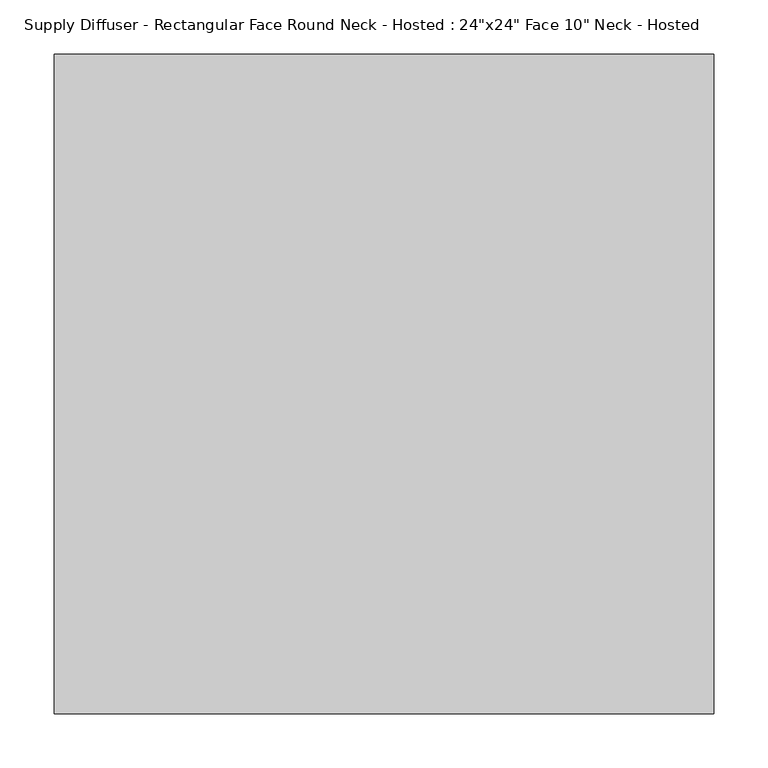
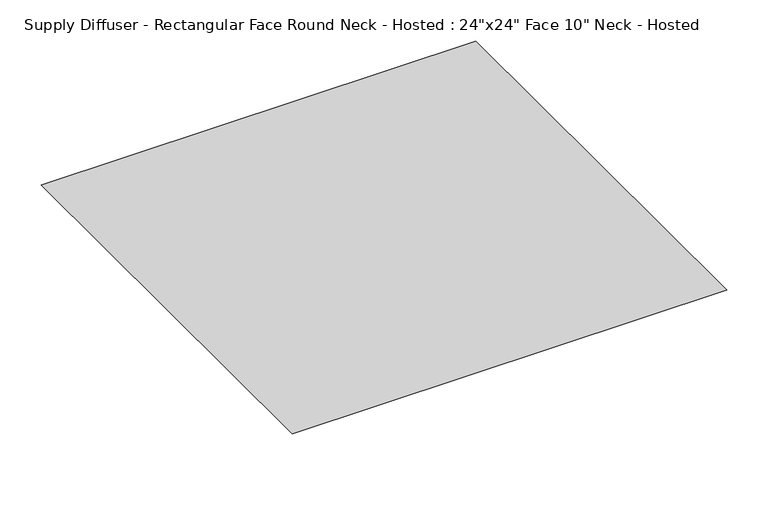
"""IFC4 building model written with IfcOpenShell, lengths in millimetres: air terminal geometry."""

from ifc_helpers import new_model, si_unit, frame, origin, place, context, project, spatial, circle_curve, source, transform, mapped, element, save
from ifc_brep_helpers import plane_surface, cylinder_surface, advanced_brep


def air_terminal_a1f6e78c(model_context):
    return source(origin(), model_context, "Body", "AdvancedBrep", [
        advanced_brep(
        [(152.4, 152.4, -28.575), (152.4, -152.4, -28.575), (-152.4, -152.4, -28.575), (-152.4, 152.4, -28.575), (-127.0, 0.0, -28.575), (127.0, 0.0, -28.575), (304.8, 304.8, 0.0), (-304.8, 304.8, 0.0), (-304.8, -304.8, 0.0), (304.8, -304.8, 0.0), (-127.0, 0.0, -53.975), (127.0, 0.0, -53.975)],
        [
            (0, 1),
            (1, 2),
            (2, 3),
            (3, 0),
            (4, 5, circle_curve(frame((0.0, 0.0, -28.575), z_axis=(0.0, 0.0, 1.0), x_axis=(1.0, 0.0, 0.0)), 127.0)),
            (5, 4, circle_curve(frame((0.0, 0.0, -28.575), z_axis=(0.0, 0.0, 1.0), x_axis=(1.0, 0.0, 0.0)), 127.0)),
            (6, 7),
            (7, 8),
            (8, 9),
            (9, 6),
            (0, 6),
            (9, 1),
            (8, 2),
            (7, 3),
            (10, 11, circle_curve(frame((0.0, 0.0, -53.975), z_axis=(0.0, 0.0, -1.0), x_axis=(1.0, 0.0, 0.0)), 127.0)),
            (11, 10, circle_curve(frame((0.0, 0.0, -53.975), z_axis=(0.0, 0.0, -1.0), x_axis=(1.0, 0.0, 0.0)), 127.0)),
            (11, 5),
            (4, 10),
        ],
        [
            plane_surface(frame((0.0, 0.0, -28.575), z_axis=(0.0, 0.0, -1.0), x_axis=(-1.0, 0.0, 0.0))),
            plane_surface(frame((0.0, 0.0, 0.0), z_axis=(0.0, 0.0, 1.0), x_axis=(-1.0, 0.0, 0.0))),
            plane_surface(frame((304.8, 0.0, 0.0), z_axis=(0.1842885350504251, 0.0, -0.982872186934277), x_axis=(0.0, -1.0, 0.0))),
            plane_surface(frame((0.0, -304.8, 0.0), z_axis=(0.0, -0.18428853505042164, -0.9828721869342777), x_axis=(-1.0, 0.0, 0.0))),
            plane_surface(frame((-304.8, 0.0, 0.0), z_axis=(-0.18428853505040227, 0.0, -0.9828721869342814), x_axis=(0.0, 1.0, 0.0))),
            plane_surface(frame((0.0, 304.8, 0.0), z_axis=(0.0, 0.18428853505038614, -0.9828721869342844), x_axis=(1.0, 0.0, 0.0))),
            plane_surface(frame((127.0, 0.0, -53.975), z_axis=(0.0, 0.0, -1.0), x_axis=(0.0, -1.0, 0.0))),
            cylinder_surface(frame((0.0, 0.0, -53.975), z_axis=(0.0, 0.0, 1.0), x_axis=(1.0, 0.0, 0.0)), 127.0),
        ],
        [
            (0, [[1, 2, 3, 4], [5, 6]]),
            (1, [[7, 8, 9, 10]]),
            (2, [[-1, 11, -10, 12]]),
            (3, [[-2, -12, -9, 13]]),
            (4, [[-3, -13, -8, 14]]),
            (5, [[-4, -14, -7, -11]]),
            (6, [[15, 16]]),
            (7, [[-16, 17, -5, 18]]),
            (7, [[-15, -18, -6, -17]]),
        ],
    ),
    ])


if __name__ == "__main__":
    model = new_model("IFC4")
    model_context = context("Model", 3, world=origin())
    ifc_project = project(units=[si_unit("LENGTHUNIT", "METRE", prefix="MILLI")], contexts=[model_context])
    site = spatial("IfcSite", under=ifc_project)
    building = spatial("IfcBuilding", under=site)
    placement = place(None, origin())
    air_terminal_shape = air_terminal_a1f6e78c(model_context)
    element("IfcAirTerminal", 1, ObjectType="Supply Diffuser - Rectangular Face Round Neck - Hosted : 24\"x24\" Face 10\" Neck - Hosted", at=placement, inside=building, context=model_context, shape_type="MappedRepresentation", body=[
        mapped(air_terminal_shape, transform((0.0, 0.0, 0.0), x_axis=(1.0, 0.0, 0.0), y_axis=(0.0, 1.0, 0.0), z_axis=(0.0, 0.0, 1.0))),
    ])
    save(model, "model.ifc")
